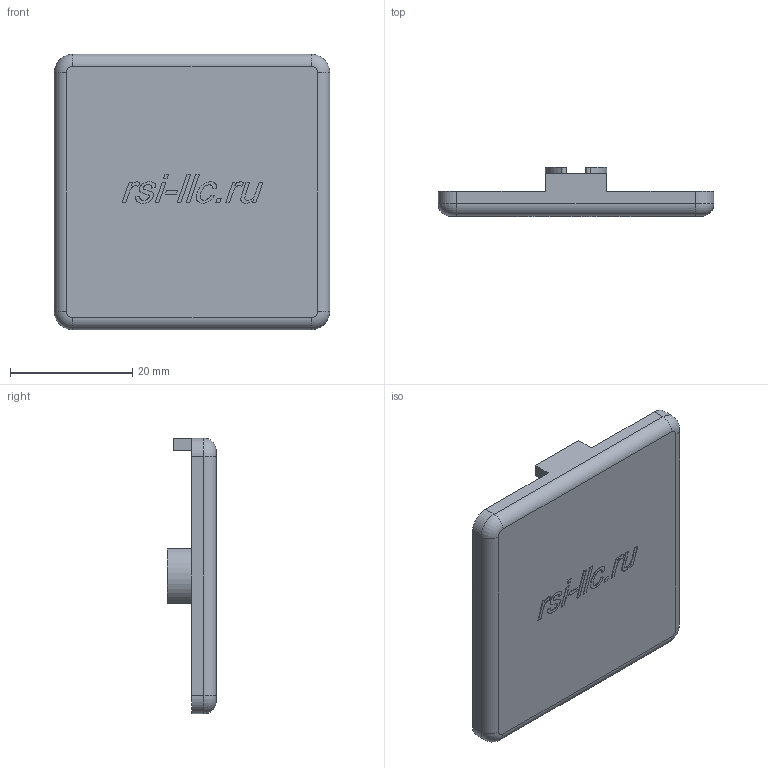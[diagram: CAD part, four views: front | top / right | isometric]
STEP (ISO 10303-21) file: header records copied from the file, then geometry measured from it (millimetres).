
FILE_DESCRIPTION (( 'STEP AP214' ), '1' );
FILE_NAME ('4004.STEP', '2020-10-21T07:12:02', ( '' ), ( '' ), 'SwSTEP 2.0', 'SolidWorks 2018', '' );
FILE_SCHEMA (( 'AUTOMOTIVE_DESIGN' ));
Length unit declared in the file: millimetre
Products named in the file (1): 4004
Bounding box: 45 x 8.1 x 45 mm (x, y, z)
Volume: 4776.4 mm3; surface area: 5213.8 mm2
Topology: 1 solids, 1 shells, 154 faces, 391 edges, 252 vertices
Faces by surface type: plane 78, bspline 32, cylinder 26, torus 18
Entity records: 7415 total; most frequent: CARTESIAN_POINT 2782, ORIENTED_EDGE 782, DIRECTION 653, EDGE_CURVE 391, VERTEX_POINT 252, VECTOR 247, LINE 247, AXIS2_PLACEMENT_3D 203
